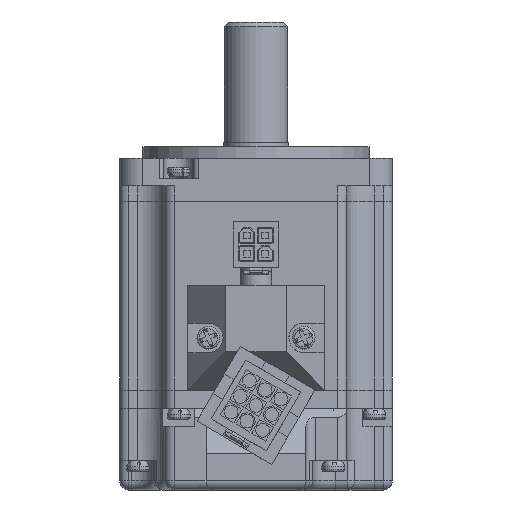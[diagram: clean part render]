
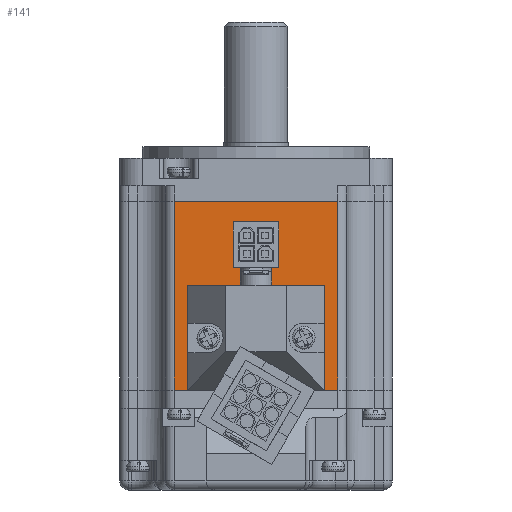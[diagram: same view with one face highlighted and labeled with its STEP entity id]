
A CAD part, front view. The second image highlights one B-rep face of the part: STEP entity #141.
In plain terms, the highlighted planar face has unit normal (0, -1, 0).
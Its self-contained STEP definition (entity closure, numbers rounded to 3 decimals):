
#141 = ADVANCED_FACE ( 'NONE', ( #1381 ), #10602, .T. ) ;
#1183 = VECTOR ( 'NONE', #3550, 1000. ) ;
#1305 = CARTESIAN_POINT ( 'NONE',  ( 18., -30., 0. ) ) ;
#1381 = FACE_OUTER_BOUND ( 'NONE', #2142, .T. ) ;
#1477 = CARTESIAN_POINT ( 'NONE',  ( -18., -30., -41.5 ) ) ;
#2142 = EDGE_LOOP ( 'NONE', ( #15291, #15860, #13922, #13503 ) ) ;
#3147 = CARTESIAN_POINT ( 'NONE',  ( -30., -30., -41.5 ) ) ;
#3235 = VECTOR ( 'NONE', #6321, 1000. ) ;
#3550 = DIRECTION ( 'NONE',  ( 0., 0., 1. ) ) ;
#4829 = DIRECTION ( 'NONE',  ( 1., 0., 0. ) ) ;
#4998 = EDGE_CURVE ( 'NONE', #14825, #17908, #12468, .T. ) ;
#5284 = LINE ( 'NONE', #20837, #1183 ) ;
#5323 = DIRECTION ( 'NONE',  ( 0., -1., 0. ) ) ;
#5326 = VERTEX_POINT ( 'NONE', #7277 ) ;
#5737 = EDGE_CURVE ( 'NONE', #17908, #5326, #12155, .T. ) ;
#6321 = DIRECTION ( 'NONE',  ( 0., 0., -1. ) ) ;
#7277 = CARTESIAN_POINT ( 'NONE',  ( 18., -30., -41.5 ) ) ;
#7547 = VECTOR ( 'NONE', #15293, 1000. ) ;
#8232 = CARTESIAN_POINT ( 'NONE',  ( -30., -30., 0. ) ) ;
#8443 = VERTEX_POINT ( 'NONE', #1305 ) ;
#8455 = EDGE_CURVE ( 'NONE', #14825, #8443, #20245, .T. ) ;
#9142 = CARTESIAN_POINT ( 'NONE',  ( -18., -30., 0. ) ) ;
#10069 = CARTESIAN_POINT ( 'NONE',  ( -30., -30., -41.5 ) ) ;
#10602 = PLANE ( 'NONE',  #18182 ) ;
#12155 = LINE ( 'NONE', #10069, #7547 ) ;
#12468 = LINE ( 'NONE', #15023, #3235 ) ;
#13503 = ORIENTED_EDGE ( 'NONE', *, *, #4998, .T. ) ;
#13922 = ORIENTED_EDGE ( 'NONE', *, *, #8455, .F. ) ;
#14825 = VERTEX_POINT ( 'NONE', #9142 ) ;
#15023 = CARTESIAN_POINT ( 'NONE',  ( -18., -30., -41.5 ) ) ;
#15044 = VECTOR ( 'NONE', #4829, 1000. ) ;
#15291 = ORIENTED_EDGE ( 'NONE', *, *, #5737, .T. ) ;
#15293 = DIRECTION ( 'NONE',  ( 1., 0., 0. ) ) ;
#15860 = ORIENTED_EDGE ( 'NONE', *, *, #16603, .T. ) ;
#16603 = EDGE_CURVE ( 'NONE', #5326, #8443, #5284, .T. ) ;
#17100 = DIRECTION ( 'NONE',  ( 0., 0., -1. ) ) ;
#17908 = VERTEX_POINT ( 'NONE', #1477 ) ;
#18182 = AXIS2_PLACEMENT_3D ( 'NONE', #3147, #5323, #17100 ) ;
#20245 = LINE ( 'NONE', #8232, #15044 ) ;
#20837 = CARTESIAN_POINT ( 'NONE',  ( 18., -30., 0. ) ) ;
